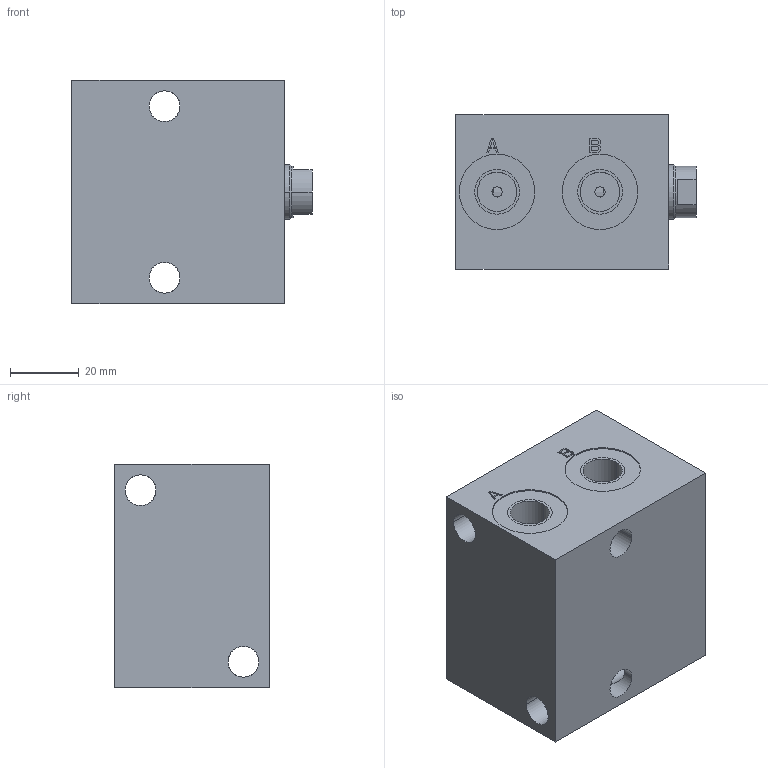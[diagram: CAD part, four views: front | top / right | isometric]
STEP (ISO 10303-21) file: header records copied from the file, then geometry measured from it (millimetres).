
FILE_DESCRIPTION((''),'2;1');
FILE_NAME('BD-18202_ASM','2013-03-05T',('chad.steele'),(''),'PRO/ENGINEER BY PARAMETRIC TECHNOLOGY CORPORATION, 2010040','PRO/ENGINEER BY PARAMETRIC TECHNOLOGY CORPORATION, 2010040','');
FILE_SCHEMA(('CONFIG_CONTROL_DESIGN'));
Length unit declared in the file: millimetre
Products named in the file (4): CZ845005; CZ857044; PA2705040; BD-18202_ASM
Assembly tree (3 placements, depth 2):
  BD-18202_ASM
    CZ845005
    CZ857044
    PA2705040
Bounding box: 70 x 45 x 65 mm (x, y, z)
Volume: 159198.4 mm3; surface area: 41571.8 mm2
Topology: 3 solids, 8 shells, 186 faces, 466 edges, 297 vertices
Faces by surface type: plane 89, cylinder 65, torus 18, cone 14
Entity records: 5907 total; most frequent: CARTESIAN_POINT 1219, DIRECTION 1002, ORIENTED_EDGE 908, EDGE_CURVE 464, AXIS2_PLACEMENT_3D 371, VERTEX_POINT 297, VECTOR 260, LINE 260
